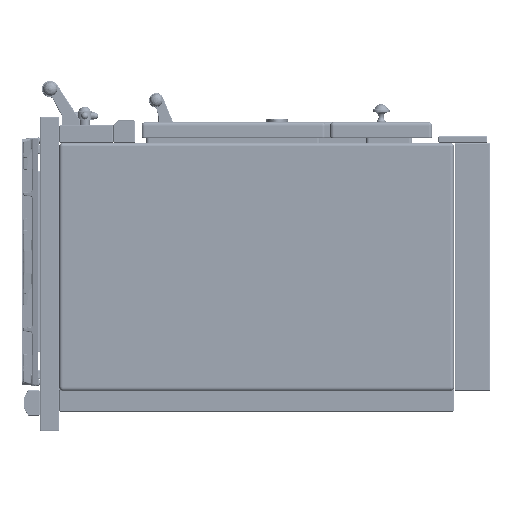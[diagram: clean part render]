
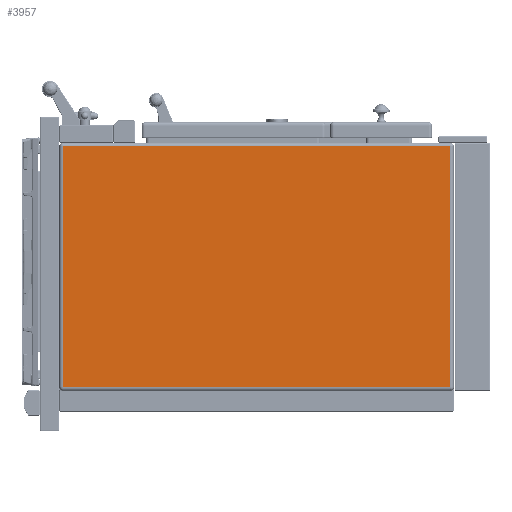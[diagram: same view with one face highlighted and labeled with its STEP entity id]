
A CAD part, left-side view. The second image highlights one B-rep face of the part: STEP entity #3957.
In plain terms, the highlighted planar face has unit normal (-1, 0, 0).
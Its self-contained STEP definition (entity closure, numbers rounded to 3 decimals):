
#421=DIRECTION('',(0.,1.,0.));
#422=VECTOR('',#421,801.);
#423=CARTESIAN_POINT('',(-700.,82.,249.));
#424=LINE('',#423,#422);
#425=DIRECTION('',(0.,0.,1.));
#426=VECTOR('',#425,498.);
#427=CARTESIAN_POINT('',(-700.,82.,-249.));
#428=LINE('',#427,#426);
#429=DIRECTION('',(0.,-1.,0.));
#430=VECTOR('',#429,801.);
#431=CARTESIAN_POINT('',(-700.,883.,-249.));
#432=LINE('',#431,#430);
#433=DIRECTION('',(0.,0.,-1.));
#434=VECTOR('',#433,498.);
#435=CARTESIAN_POINT('',(-700.,883.,249.));
#436=LINE('',#435,#434);
#2687=CARTESIAN_POINT('',(-700.,82.,249.));
#2688=CARTESIAN_POINT('',(-700.,883.,249.));
#2689=VERTEX_POINT('',#2687);
#2690=VERTEX_POINT('',#2688);
#2691=CARTESIAN_POINT('',(-700.,82.,-249.));
#2692=VERTEX_POINT('',#2691);
#2709=CARTESIAN_POINT('',(-700.,883.,-249.));
#2710=VERTEX_POINT('',#2709);
#3944=CARTESIAN_POINT('',(-700.,0.,0.));
#3945=DIRECTION('',(1.,0.,0.));
#3946=DIRECTION('',(0.,0.,-1.));
#3947=AXIS2_PLACEMENT_3D('',#3944,#3945,#3946);
#3948=PLANE('',#3947);
#3949=ORIENTED_EDGE('',*,*,#3889,.F.);
#3950=ORIENTED_EDGE('',*,*,#3927,.F.);
#3952=ORIENTED_EDGE('',*,*,#3951,.F.);
#3954=ORIENTED_EDGE('',*,*,#3953,.F.);
#3955=EDGE_LOOP('',(#3949,#3950,#3952,#3954));
#3956=FACE_OUTER_BOUND('',#3955,.F.);
#3889=EDGE_CURVE('',#2689,#2690,#424,.T.);
#3927=EDGE_CURVE('',#2692,#2689,#428,.T.);
#3951=EDGE_CURVE('',#2710,#2692,#432,.T.);
#3953=EDGE_CURVE('',#2690,#2710,#436,.T.);
#3957=ADVANCED_FACE('',(#3956),#3948,.F.);
